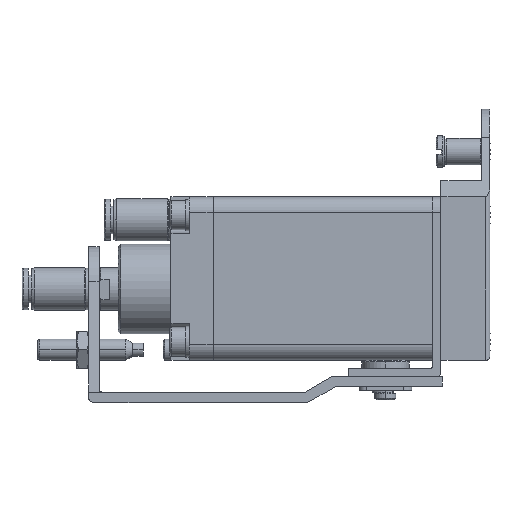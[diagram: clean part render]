
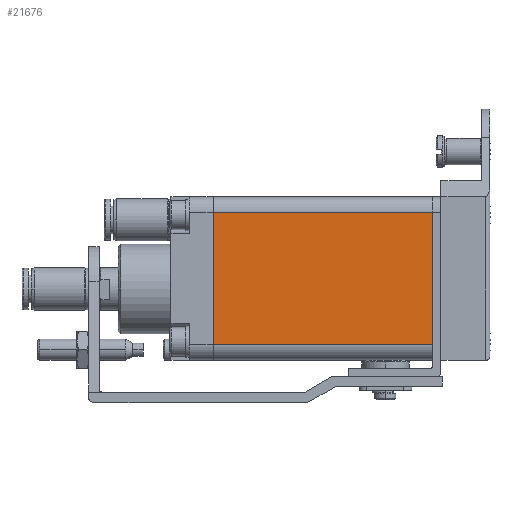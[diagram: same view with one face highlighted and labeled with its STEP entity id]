
A CAD part, left-side view. The second image highlights one B-rep face of the part: STEP entity #21676.
In plain terms, the highlighted planar face has unit normal (-1, 0, 0).
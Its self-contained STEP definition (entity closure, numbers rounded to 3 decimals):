
#654 = EDGE_CURVE ( 'NONE', #9645, #6870, #25788, .T. ) ;
#939 = EDGE_CURVE ( 'NONE', #27894, #2198, #31859, .T. ) ;
#2198 = VERTEX_POINT ( 'NONE', #19942 ) ;
#5874 = CARTESIAN_POINT ( 'NONE',  ( -11.5, 20.75, -12.5 ) ) ;
#6545 = EDGE_CURVE ( 'NONE', #2198, #6870, #27148, .T. ) ;
#6870 = VERTEX_POINT ( 'NONE', #7438 ) ;
#7438 = CARTESIAN_POINT ( 'NONE',  ( -11.5, 41.5, -12.5 ) ) ;
#8591 = CARTESIAN_POINT ( 'NONE',  ( -11.5, 41.5, 0. ) ) ;
#9434 = ORIENTED_EDGE ( 'NONE', *, *, #29707, .T. ) ;
#9645 = VERTEX_POINT ( 'NONE', #30146 ) ;
#10076 = ORIENTED_EDGE ( 'NONE', *, *, #939, .T. ) ;
#11304 = CARTESIAN_POINT ( 'NONE',  ( -11.5, 0., 12.5 ) ) ;
#12338 = CARTESIAN_POINT ( 'NONE',  ( -11.5, -4.15, -15. ) ) ;
#14098 = ORIENTED_EDGE ( 'NONE', *, *, #654, .F. ) ;
#14249 = DIRECTION ( 'NONE',  ( 0., 1., 0. ) ) ;
#14901 = PLANE ( 'NONE',  #28041 ) ;
#15014 = DIRECTION ( 'NONE',  ( 0., 0., 1. ) ) ;
#16464 = DIRECTION ( 'NONE',  ( 0., 1., 0. ) ) ;
#16597 = DIRECTION ( 'NONE',  ( 0., 0., -1. ) ) ;
#16781 = VECTOR ( 'NONE', #31041, 1000. ) ;
#17677 = EDGE_LOOP ( 'NONE', ( #9434, #10076, #20609, #14098 ) ) ;
#17926 = VECTOR ( 'NONE', #14249, 1000. ) ;
#19942 = CARTESIAN_POINT ( 'NONE',  ( -11.5, 41.5, 12.5 ) ) ;
#20152 = VECTOR ( 'NONE', #16597, 1000. ) ;
#20609 = ORIENTED_EDGE ( 'NONE', *, *, #6545, .T. ) ;
#21676 = ADVANCED_FACE ( 'NONE', ( #23595 ), #14901, .T. ) ;
#22976 = CARTESIAN_POINT ( 'NONE',  ( -11.5, 0., 0. ) ) ;
#23595 = FACE_OUTER_BOUND ( 'NONE', #17677, .T. ) ;
#23812 = LINE ( 'NONE', #22976, #16781 ) ;
#25788 = LINE ( 'NONE', #5874, #26610 ) ;
#26610 = VECTOR ( 'NONE', #16464, 1000. ) ;
#27148 = LINE ( 'NONE', #8591, #20152 ) ;
#27391 = CARTESIAN_POINT ( 'NONE',  ( -11.5, 20.75, 12.5 ) ) ;
#27894 = VERTEX_POINT ( 'NONE', #11304 ) ;
#28041 = AXIS2_PLACEMENT_3D ( 'NONE', #12338, #30745, #15014 ) ;
#29707 = EDGE_CURVE ( 'NONE', #9645, #27894, #23812, .T. ) ;
#30146 = CARTESIAN_POINT ( 'NONE',  ( -11.5, 0., -12.5 ) ) ;
#30745 = DIRECTION ( 'NONE',  ( -1., 0., 0. ) ) ;
#31041 = DIRECTION ( 'NONE',  ( 0., 0., 1. ) ) ;
#31859 = LINE ( 'NONE', #27391, #17926 ) ;
